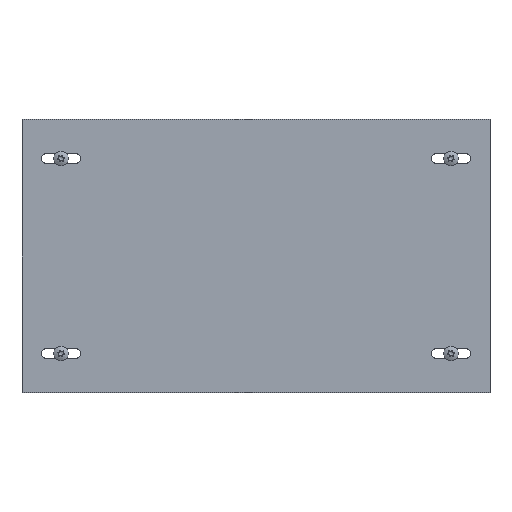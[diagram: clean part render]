
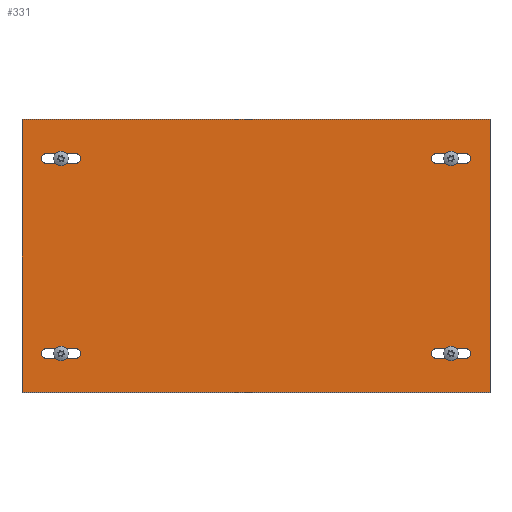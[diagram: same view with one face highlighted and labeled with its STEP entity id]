
A CAD part, top view. The second image highlights one B-rep face of the part: STEP entity #331.
In plain terms, the highlighted planar face has unit normal (0, 0, 1).
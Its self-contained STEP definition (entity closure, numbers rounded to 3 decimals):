
#55 = EDGE_CURVE('',#56,#58,#60,.T.);
#56 = VERTEX_POINT('',#57);
#57 = CARTESIAN_POINT('',(-150.,87.5,0.));
#58 = VERTEX_POINT('',#59);
#59 = CARTESIAN_POINT('',(-150.,-87.5,0.));
#60 = LINE('',#61,#62);
#61 = CARTESIAN_POINT('',(-150.,-87.5,0.));
#62 = VECTOR('',#63,1.);
#63 = DIRECTION('',(-0.,-1.,-0.));
#95 = EDGE_CURVE('',#96,#56,#98,.T.);
#96 = VERTEX_POINT('',#97);
#97 = CARTESIAN_POINT('',(150.,87.5,0.));
#98 = LINE('',#99,#100);
#99 = CARTESIAN_POINT('',(150.,87.5,0.));
#100 = VECTOR('',#101,1.);
#101 = DIRECTION('',(-1.,0.,0.));
#126 = EDGE_CURVE('',#127,#96,#129,.T.);
#127 = VERTEX_POINT('',#128);
#128 = CARTESIAN_POINT('',(150.,-87.5,0.));
#129 = LINE('',#130,#131);
#130 = CARTESIAN_POINT('',(150.,-87.5,0.));
#131 = VECTOR('',#132,1.);
#132 = DIRECTION('',(0.,1.,0.));
#157 = EDGE_CURVE('',#58,#127,#158,.T.);
#158 = LINE('',#159,#160);
#159 = CARTESIAN_POINT('',(150.,-87.5,0.));
#160 = VECTOR('',#161,1.);
#161 = DIRECTION('',(1.,0.,-0.));
#331 = ADVANCED_FACE('',(#332,#368,#404,#440,#476),#482,.T.);
#332 = FACE_BOUND('',#333,.T.);
#333 = EDGE_LOOP('',(#334,#345,#353,#362));
#334 = ORIENTED_EDGE('',*,*,#335,.F.);
#335 = EDGE_CURVE('',#336,#338,#340,.T.);
#336 = VERTEX_POINT('',#337);
#337 = CARTESIAN_POINT('',(-115.75,-65.75,0.));
#338 = VERTEX_POINT('',#339);
#339 = CARTESIAN_POINT('',(-115.75,-59.25,0.));
#340 = CIRCLE('',#341,3.25);
#341 = AXIS2_PLACEMENT_3D('',#342,#343,#344);
#342 = CARTESIAN_POINT('',(-115.75,-62.5,0.));
#343 = DIRECTION('',(0.,0.,1.));
#344 = DIRECTION('',(1.,0.,-0.));
#345 = ORIENTED_EDGE('',*,*,#346,.F.);
#346 = EDGE_CURVE('',#347,#336,#349,.T.);
#347 = VERTEX_POINT('',#348);
#348 = CARTESIAN_POINT('',(-134.25,-65.75,0.));
#349 = LINE('',#350,#351);
#350 = CARTESIAN_POINT('',(-115.75,-65.75,0.));
#351 = VECTOR('',#352,1.);
#352 = DIRECTION('',(1.,-0.,-0.));
#353 = ORIENTED_EDGE('',*,*,#354,.F.);
#354 = EDGE_CURVE('',#355,#347,#357,.T.);
#355 = VERTEX_POINT('',#356);
#356 = CARTESIAN_POINT('',(-134.25,-59.25,0.));
#357 = CIRCLE('',#358,3.25);
#358 = AXIS2_PLACEMENT_3D('',#359,#360,#361);
#359 = CARTESIAN_POINT('',(-134.25,-62.5,0.));
#360 = DIRECTION('',(0.,0.,1.));
#361 = DIRECTION('',(1.,0.,-0.));
#362 = ORIENTED_EDGE('',*,*,#363,.F.);
#363 = EDGE_CURVE('',#338,#355,#364,.T.);
#364 = LINE('',#365,#366);
#365 = CARTESIAN_POINT('',(-115.75,-59.25,0.));
#366 = VECTOR('',#367,1.);
#367 = DIRECTION('',(-1.,0.,0.));
#368 = FACE_BOUND('',#369,.T.);
#369 = EDGE_LOOP('',(#370,#381,#389,#398));
#370 = ORIENTED_EDGE('',*,*,#371,.F.);
#371 = EDGE_CURVE('',#372,#374,#376,.T.);
#372 = VERTEX_POINT('',#373);
#373 = CARTESIAN_POINT('',(-115.75,59.25,0.));
#374 = VERTEX_POINT('',#375);
#375 = CARTESIAN_POINT('',(-115.75,65.75,0.));
#376 = CIRCLE('',#377,3.25);
#377 = AXIS2_PLACEMENT_3D('',#378,#379,#380);
#378 = CARTESIAN_POINT('',(-115.75,62.5,0.));
#379 = DIRECTION('',(0.,0.,1.));
#380 = DIRECTION('',(-1.,0.,0.));
#381 = ORIENTED_EDGE('',*,*,#382,.F.);
#382 = EDGE_CURVE('',#383,#372,#385,.T.);
#383 = VERTEX_POINT('',#384);
#384 = CARTESIAN_POINT('',(-134.25,59.25,0.));
#385 = LINE('',#386,#387);
#386 = CARTESIAN_POINT('',(-115.75,59.25,0.));
#387 = VECTOR('',#388,1.);
#388 = DIRECTION('',(1.,-0.,-0.));
#389 = ORIENTED_EDGE('',*,*,#390,.F.);
#390 = EDGE_CURVE('',#391,#383,#393,.T.);
#391 = VERTEX_POINT('',#392);
#392 = CARTESIAN_POINT('',(-134.25,65.75,0.));
#393 = CIRCLE('',#394,3.25);
#394 = AXIS2_PLACEMENT_3D('',#395,#396,#397);
#395 = CARTESIAN_POINT('',(-134.25,62.5,0.));
#396 = DIRECTION('',(0.,0.,1.));
#397 = DIRECTION('',(-1.,0.,0.));
#398 = ORIENTED_EDGE('',*,*,#399,.F.);
#399 = EDGE_CURVE('',#374,#391,#400,.T.);
#400 = LINE('',#401,#402);
#401 = CARTESIAN_POINT('',(-115.75,65.75,0.));
#402 = VECTOR('',#403,1.);
#403 = DIRECTION('',(-1.,0.,0.));
#404 = FACE_BOUND('',#405,.T.);
#405 = EDGE_LOOP('',(#406,#417,#425,#434));
#406 = ORIENTED_EDGE('',*,*,#407,.F.);
#407 = EDGE_CURVE('',#408,#410,#412,.T.);
#408 = VERTEX_POINT('',#409);
#409 = CARTESIAN_POINT('',(115.75,65.75,0.));
#410 = VERTEX_POINT('',#411);
#411 = CARTESIAN_POINT('',(115.75,59.25,0.));
#412 = CIRCLE('',#413,3.25);
#413 = AXIS2_PLACEMENT_3D('',#414,#415,#416);
#414 = CARTESIAN_POINT('',(115.75,62.5,0.));
#415 = DIRECTION('',(0.,0.,1.));
#416 = DIRECTION('',(1.,0.,-0.));
#417 = ORIENTED_EDGE('',*,*,#418,.F.);
#418 = EDGE_CURVE('',#419,#408,#421,.T.);
#419 = VERTEX_POINT('',#420);
#420 = CARTESIAN_POINT('',(134.25,65.75,0.));
#421 = LINE('',#422,#423);
#422 = CARTESIAN_POINT('',(115.75,65.75,0.));
#423 = VECTOR('',#424,1.);
#424 = DIRECTION('',(-1.,-0.,-0.));
#425 = ORIENTED_EDGE('',*,*,#426,.F.);
#426 = EDGE_CURVE('',#427,#419,#429,.T.);
#427 = VERTEX_POINT('',#428);
#428 = CARTESIAN_POINT('',(134.25,59.25,0.));
#429 = CIRCLE('',#430,3.25);
#430 = AXIS2_PLACEMENT_3D('',#431,#432,#433);
#431 = CARTESIAN_POINT('',(134.25,62.5,0.));
#432 = DIRECTION('',(0.,0.,1.));
#433 = DIRECTION('',(1.,0.,-0.));
#434 = ORIENTED_EDGE('',*,*,#435,.F.);
#435 = EDGE_CURVE('',#410,#427,#436,.T.);
#436 = LINE('',#437,#438);
#437 = CARTESIAN_POINT('',(115.75,59.25,0.));
#438 = VECTOR('',#439,1.);
#439 = DIRECTION('',(1.,0.,0.));
#440 = FACE_BOUND('',#441,.T.);
#441 = EDGE_LOOP('',(#442,#453,#461,#470));
#442 = ORIENTED_EDGE('',*,*,#443,.F.);
#443 = EDGE_CURVE('',#444,#446,#448,.T.);
#444 = VERTEX_POINT('',#445);
#445 = CARTESIAN_POINT('',(115.75,-59.25,0.));
#446 = VERTEX_POINT('',#447);
#447 = CARTESIAN_POINT('',(115.75,-65.75,0.));
#448 = CIRCLE('',#449,3.25);
#449 = AXIS2_PLACEMENT_3D('',#450,#451,#452);
#450 = CARTESIAN_POINT('',(115.75,-62.5,0.));
#451 = DIRECTION('',(0.,0.,1.));
#452 = DIRECTION('',(-1.,0.,0.));
#453 = ORIENTED_EDGE('',*,*,#454,.F.);
#454 = EDGE_CURVE('',#455,#444,#457,.T.);
#455 = VERTEX_POINT('',#456);
#456 = CARTESIAN_POINT('',(134.25,-59.25,0.));
#457 = LINE('',#458,#459);
#458 = CARTESIAN_POINT('',(115.75,-59.25,0.));
#459 = VECTOR('',#460,1.);
#460 = DIRECTION('',(-1.,-0.,-0.));
#461 = ORIENTED_EDGE('',*,*,#462,.F.);
#462 = EDGE_CURVE('',#463,#455,#465,.T.);
#463 = VERTEX_POINT('',#464);
#464 = CARTESIAN_POINT('',(134.25,-65.75,0.));
#465 = CIRCLE('',#466,3.25);
#466 = AXIS2_PLACEMENT_3D('',#467,#468,#469);
#467 = CARTESIAN_POINT('',(134.25,-62.5,0.));
#468 = DIRECTION('',(0.,0.,1.));
#469 = DIRECTION('',(-1.,0.,0.));
#470 = ORIENTED_EDGE('',*,*,#471,.F.);
#471 = EDGE_CURVE('',#446,#463,#472,.T.);
#472 = LINE('',#473,#474);
#473 = CARTESIAN_POINT('',(115.75,-65.75,0.));
#474 = VECTOR('',#475,1.);
#475 = DIRECTION('',(1.,0.,0.));
#476 = FACE_BOUND('',#477,.T.);
#477 = EDGE_LOOP('',(#478,#479,#480,#481));
#478 = ORIENTED_EDGE('',*,*,#55,.T.);
#479 = ORIENTED_EDGE('',*,*,#157,.T.);
#480 = ORIENTED_EDGE('',*,*,#126,.T.);
#481 = ORIENTED_EDGE('',*,*,#95,.T.);
#482 = PLANE('',#483);
#483 = AXIS2_PLACEMENT_3D('',#484,#485,#486);
#484 = CARTESIAN_POINT('',(0.,0.,0.));
#485 = DIRECTION('',(0.,-0.,1.));
#486 = DIRECTION('',(1.,0.,0.));
